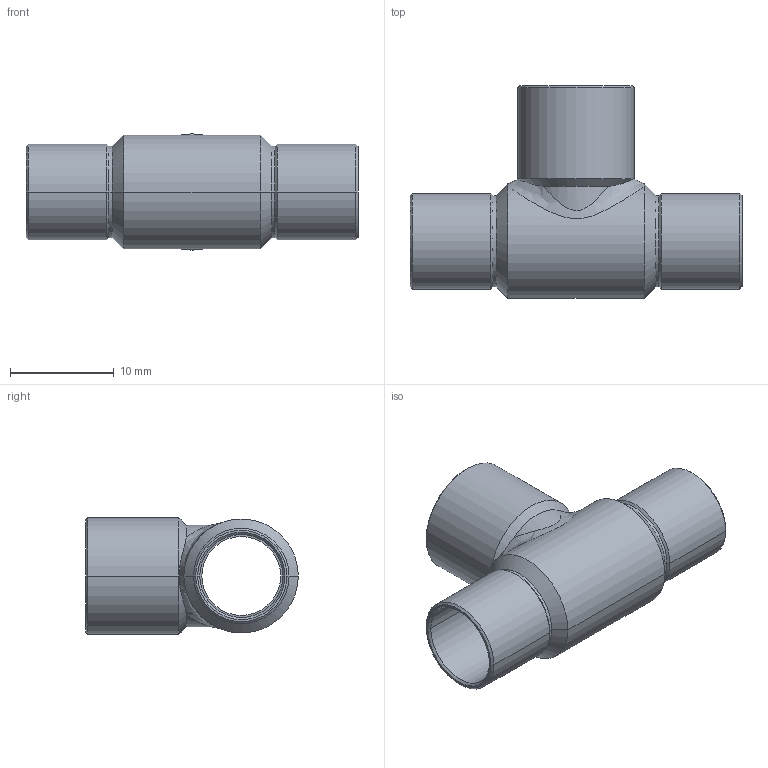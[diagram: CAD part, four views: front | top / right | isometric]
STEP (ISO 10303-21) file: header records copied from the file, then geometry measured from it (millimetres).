
FILE_DESCRIPTION((''),'2;1');
FILE_NAME('P:\Bouwmaten\z-maattekeningen 3D\5000\5130\51308108.stp','2005-10-26T11:54:01',('Kris'),(''),'Autodesk Inventor 8','Autodesk Inventor 8','');
FILE_SCHEMA(('AUTOMOTIVE_DESIGN { 1 0 10303 214 1 1 1 1 }'));
Length unit declared in the file: millimetre
Products named in the file (1): 51308108
Bounding box: 32 x 20.5 x 11.2 mm (x, y, z)
Volume: 743.2 mm3; surface area: 2540.4 mm2
Topology: 1 solids, 1 shells, 63 faces, 144 edges, 84 vertices
Faces by surface type: cone 24, cylinder 20, bspline 15, plane 4
Entity records: 2526 total; most frequent: CARTESIAN_POINT 1145, ORIENTED_EDGE 288, DIRECTION 278, EDGE_CURVE 144, AXIS2_PLACEMENT_3D 114, VERTEX_POINT 84, EDGE_LOOP 68, CIRCLE 65
